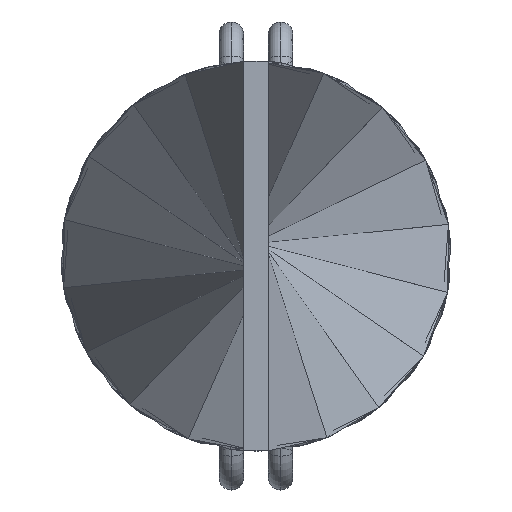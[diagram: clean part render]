
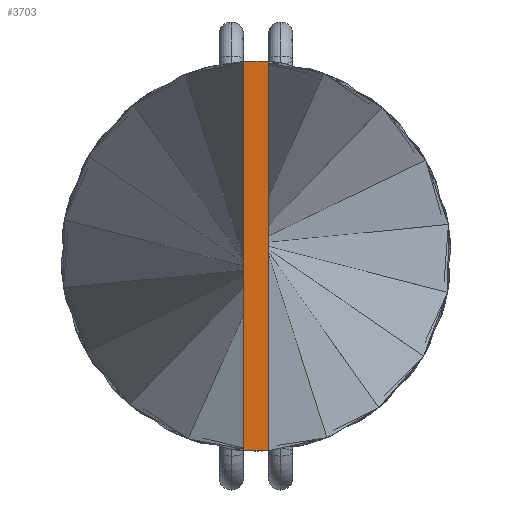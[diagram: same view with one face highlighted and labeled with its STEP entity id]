
A CAD part, left-side view. The second image highlights one B-rep face of the part: STEP entity #3703.
In plain terms, the highlighted planar face has unit normal (-1, 0, 0).
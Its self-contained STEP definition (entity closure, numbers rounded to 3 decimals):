
#5 = VECTOR ( 'NONE', #268, 1000. ) ;
#256 = VERTEX_POINT ( 'NONE', #4420 ) ;
#268 = DIRECTION ( 'NONE',  ( 0., 0., 1. ) ) ;
#602 = ORIENTED_EDGE ( 'NONE', *, *, #3966, .T. ) ;
#656 = CARTESIAN_POINT ( 'NONE',  ( -300., 0.5, -7.9 ) ) ;
#842 = VECTOR ( 'NONE', #2663, 1000. ) ;
#889 = VECTOR ( 'NONE', #4162, 1000. ) ;
#891 = AXIS2_PLACEMENT_3D ( 'NONE', #1566, #1235, #2264 ) ;
#1128 = VECTOR ( 'NONE', #2047, 1000. ) ;
#1235 = DIRECTION ( 'NONE',  ( -1., 0., 0. ) ) ;
#1468 = VERTEX_POINT ( 'NONE', #4084 ) ;
#1483 = FACE_OUTER_BOUND ( 'NONE', #3206, .T. ) ;
#1566 = CARTESIAN_POINT ( 'NONE',  ( -300., 0., 0. ) ) ;
#1637 = VERTEX_POINT ( 'NONE', #3979 ) ;
#1917 = PLANE ( 'NONE',  #891 ) ;
#2041 = LINE ( 'NONE', #4072, #1128 ) ;
#2047 = DIRECTION ( 'NONE',  ( 0., 1., 0. ) ) ;
#2264 = DIRECTION ( 'NONE',  ( 0., 0., 1. ) ) ;
#2359 = EDGE_CURVE ( 'NONE', #2622, #1468, #2041, .T. ) ;
#2434 = EDGE_CURVE ( 'NONE', #1637, #2622, #3507, .T. ) ;
#2622 = VERTEX_POINT ( 'NONE', #3195 ) ;
#2638 = CARTESIAN_POINT ( 'NONE',  ( -300., -0.5, -7.9 ) ) ;
#2645 = ORIENTED_EDGE ( 'NONE', *, *, #4388, .T. ) ;
#2654 = LINE ( 'NONE', #656, #842 ) ;
#2663 = DIRECTION ( 'NONE',  ( 0., -1., 0. ) ) ;
#2707 = LINE ( 'NONE', #3818, #889 ) ;
#2906 = ORIENTED_EDGE ( 'NONE', *, *, #2359, .T. ) ;
#3195 = CARTESIAN_POINT ( 'NONE',  ( -300., -0.5, 7.9 ) ) ;
#3206 = EDGE_LOOP ( 'NONE', ( #602, #3803, #2906, #2645 ) ) ;
#3507 = LINE ( 'NONE', #2638, #5 ) ;
#3703 = ADVANCED_FACE ( 'NONE', ( #1483 ), #1917, .T. ) ;
#3803 = ORIENTED_EDGE ( 'NONE', *, *, #2434, .T. ) ;
#3818 = CARTESIAN_POINT ( 'NONE',  ( -300., 0.5, 7.9 ) ) ;
#3966 = EDGE_CURVE ( 'NONE', #256, #1637, #2654, .T. ) ;
#3979 = CARTESIAN_POINT ( 'NONE',  ( -300., -0.5, -7.9 ) ) ;
#4072 = CARTESIAN_POINT ( 'NONE',  ( -300., -0.5, 7.9 ) ) ;
#4084 = CARTESIAN_POINT ( 'NONE',  ( -300., 0.5, 7.9 ) ) ;
#4162 = DIRECTION ( 'NONE',  ( 0., 0., -1. ) ) ;
#4388 = EDGE_CURVE ( 'NONE', #1468, #256, #2707, .T. ) ;
#4420 = CARTESIAN_POINT ( 'NONE',  ( -300., 0.5, -7.9 ) ) ;
